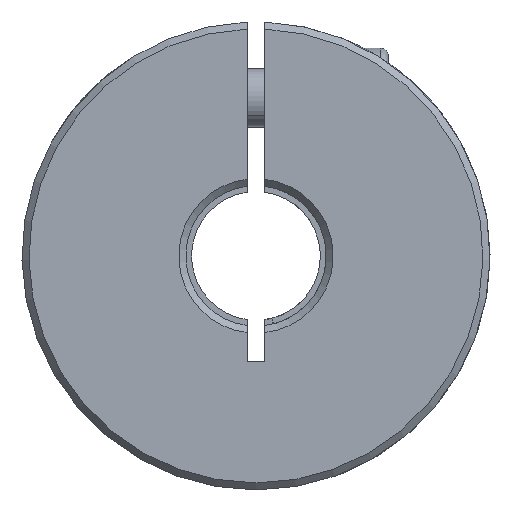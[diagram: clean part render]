
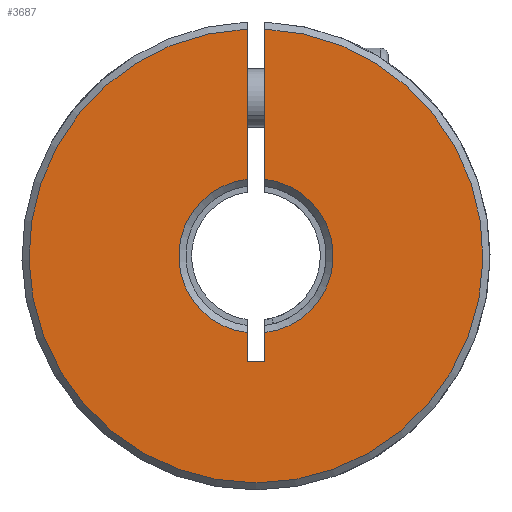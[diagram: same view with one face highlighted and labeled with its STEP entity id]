
A CAD part, front view. The second image highlights one B-rep face of the part: STEP entity #3687.
In plain terms, the highlighted planar face has unit normal (0, -1, 0).
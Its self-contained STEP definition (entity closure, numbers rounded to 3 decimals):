
#43 = VECTOR ( 'NONE', #1894, 1000. ) ;
#232 = CARTESIAN_POINT ( 'NONE',  ( -0.75, -25., 19.385 ) ) ;
#345 = CARTESIAN_POINT ( 'NONE',  ( 0.75, -25., -6.557 ) ) ;
#346 = ORIENTED_EDGE ( 'NONE', *, *, #1791, .T. ) ;
#384 = EDGE_CURVE ( 'NONE', #1948, #5260, #4657, .T. ) ;
#390 = ORIENTED_EDGE ( 'NONE', *, *, #4896, .T. ) ;
#541 = CARTESIAN_POINT ( 'NONE',  ( 0., -25., 0. ) ) ;
#731 = DIRECTION ( 'NONE',  ( 0., 0., 1. ) ) ;
#762 = CARTESIAN_POINT ( 'NONE',  ( 0., -25., 0. ) ) ;
#769 = CARTESIAN_POINT ( 'NONE',  ( 0.75, -25., -9. ) ) ;
#811 = VERTEX_POINT ( 'NONE', #5245 ) ;
#1002 = LINE ( 'NONE', #2776, #43 ) ;
#1481 = DIRECTION ( 'NONE',  ( 0., 0., -1. ) ) ;
#1578 = EDGE_LOOP ( 'NONE', ( #4357, #1748, #390, #2453, #3505, #346, #3016, #3413 ) ) ;
#1745 = CIRCLE ( 'NONE', #2118, 6.6 ) ;
#1748 = ORIENTED_EDGE ( 'NONE', *, *, #384, .T. ) ;
#1791 = EDGE_CURVE ( 'NONE', #2152, #811, #1745, .T. ) ;
#1830 = CIRCLE ( 'NONE', #5536, 19.4 ) ;
#1894 = DIRECTION ( 'NONE',  ( 0., 0., 1. ) ) ;
#1948 = VERTEX_POINT ( 'NONE', #3644 ) ;
#2078 = VECTOR ( 'NONE', #4961, 1000. ) ;
#2118 = AXIS2_PLACEMENT_3D ( 'NONE', #3895, #3582, #5408 ) ;
#2152 = VERTEX_POINT ( 'NONE', #5218 ) ;
#2309 = DIRECTION ( 'NONE',  ( -1., 0., 0. ) ) ;
#2358 = LINE ( 'NONE', #4192, #4253 ) ;
#2363 = VERTEX_POINT ( 'NONE', #5980 ) ;
#2368 = DIRECTION ( 'NONE',  ( 0., 1., 0. ) ) ;
#2417 = EDGE_CURVE ( 'NONE', #2363, #2152, #2358, .T. ) ;
#2453 = ORIENTED_EDGE ( 'NONE', *, *, #3459, .T. ) ;
#2776 = CARTESIAN_POINT ( 'NONE',  ( -0.75, -25., -9. ) ) ;
#3016 = ORIENTED_EDGE ( 'NONE', *, *, #4712, .T. ) ;
#3086 = CARTESIAN_POINT ( 'NONE',  ( 0.75, -25., -9. ) ) ;
#3147 = VECTOR ( 'NONE', #2309, 1000. ) ;
#3242 = VERTEX_POINT ( 'NONE', #232 ) ;
#3413 = ORIENTED_EDGE ( 'NONE', *, *, #4523, .T. ) ;
#3459 = EDGE_CURVE ( 'NONE', #4272, #2363, #3982, .T. ) ;
#3505 = ORIENTED_EDGE ( 'NONE', *, *, #2417, .T. ) ;
#3582 = DIRECTION ( 'NONE',  ( 0., 1., 0. ) ) ;
#3587 = CARTESIAN_POINT ( 'NONE',  ( 0., -25., 0. ) ) ;
#3644 = CARTESIAN_POINT ( 'NONE',  ( 0.75, -25., 6.557 ) ) ;
#3687 = ADVANCED_FACE ( 'NONE', ( #5858 ), #5825, .F. ) ;
#3696 = LINE ( 'NONE', #4782, #4054 ) ;
#3895 = CARTESIAN_POINT ( 'NONE',  ( 0., -25., 0. ) ) ;
#3962 = AXIS2_PLACEMENT_3D ( 'NONE', #762, #5964, #731 ) ;
#3982 = LINE ( 'NONE', #5841, #3147 ) ;
#4026 = AXIS2_PLACEMENT_3D ( 'NONE', #541, #2368, #5366 ) ;
#4036 = LINE ( 'NONE', #3086, #2078 ) ;
#4054 = VECTOR ( 'NONE', #1481, 1000. ) ;
#4192 = CARTESIAN_POINT ( 'NONE',  ( -0.75, -25., -9. ) ) ;
#4253 = VECTOR ( 'NONE', #5128, 1000. ) ;
#4272 = VERTEX_POINT ( 'NONE', #769 ) ;
#4357 = ORIENTED_EDGE ( 'NONE', *, *, #5119, .T. ) ;
#4443 = VERTEX_POINT ( 'NONE', #5809 ) ;
#4523 = EDGE_CURVE ( 'NONE', #3242, #4443, #1830, .T. ) ;
#4581 = DIRECTION ( 'NONE',  ( 0., 0., 1. ) ) ;
#4657 = CIRCLE ( 'NONE', #3962, 6.6 ) ;
#4712 = EDGE_CURVE ( 'NONE', #811, #3242, #1002, .T. ) ;
#4782 = CARTESIAN_POINT ( 'NONE',  ( 0.75, -25., -9. ) ) ;
#4896 = EDGE_CURVE ( 'NONE', #5260, #4272, #4036, .T. ) ;
#4961 = DIRECTION ( 'NONE',  ( 0., 0., -1. ) ) ;
#5119 = EDGE_CURVE ( 'NONE', #4443, #1948, #3696, .T. ) ;
#5128 = DIRECTION ( 'NONE',  ( 0., 0., 1. ) ) ;
#5218 = CARTESIAN_POINT ( 'NONE',  ( -0.75, -25., -6.557 ) ) ;
#5245 = CARTESIAN_POINT ( 'NONE',  ( -0.75, -25., 6.557 ) ) ;
#5260 = VERTEX_POINT ( 'NONE', #345 ) ;
#5366 = DIRECTION ( 'NONE',  ( 0., 0., 1. ) ) ;
#5408 = DIRECTION ( 'NONE',  ( 0., 0., 1. ) ) ;
#5499 = DIRECTION ( 'NONE',  ( 0., -1., 0. ) ) ;
#5536 = AXIS2_PLACEMENT_3D ( 'NONE', #3587, #5499, #4581 ) ;
#5809 = CARTESIAN_POINT ( 'NONE',  ( 0.75, -25., 19.385 ) ) ;
#5825 = PLANE ( 'NONE',  #4026 ) ;
#5841 = CARTESIAN_POINT ( 'NONE',  ( -0.75, -25., -9. ) ) ;
#5858 = FACE_OUTER_BOUND ( 'NONE', #1578, .T. ) ;
#5964 = DIRECTION ( 'NONE',  ( 0., 1., 0. ) ) ;
#5980 = CARTESIAN_POINT ( 'NONE',  ( -0.75, -25., -9. ) ) ;
